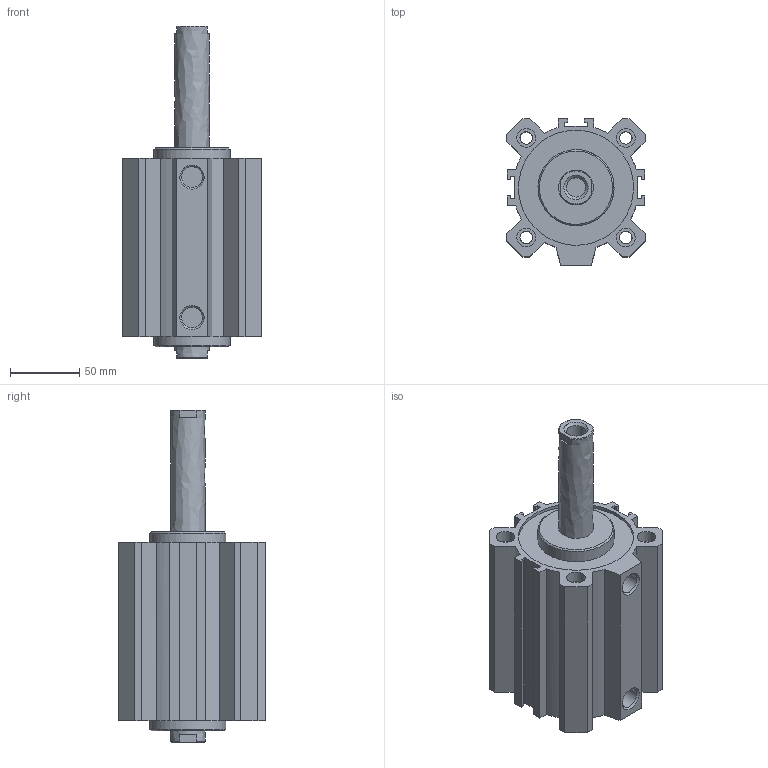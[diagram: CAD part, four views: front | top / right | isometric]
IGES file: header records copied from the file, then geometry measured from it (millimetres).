
Global section: file name: 1514_80_0080; native system: Autodesk Inventor 2014; preprocessor: unknown; author: A. Manieri; date: 20160824.142058; units: millimetre
Bounding box: 100 x 106 x 240 mm (x, y, z)
Volume: 756153.6 mm3; surface area: 175722.6 mm2
Topology: 2 solids, 2 shells, 132 faces, 346 edges, 238 vertices
Faces by surface type: bspline 132
